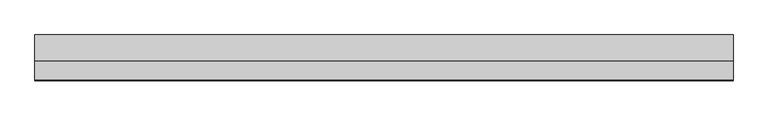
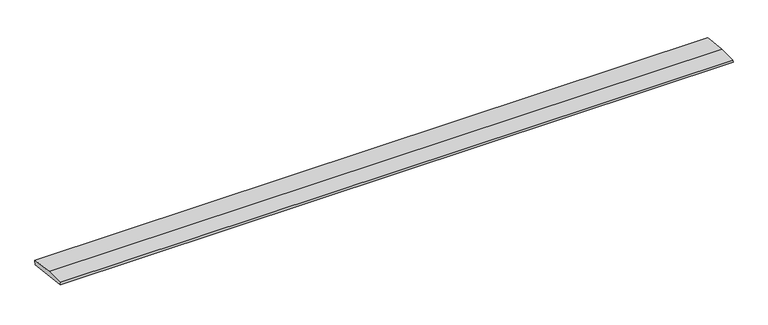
"""IFC4 building model written with IfcOpenShell, lengths in millimetres: beam geometry, weatherboad : weatherboad."""

from ifc_helpers import new_model, si_unit, frame, origin, place, context, project, spatial, polyline, outline, extrude, source, transform, mapped, element, save


def beam_4b6b203c(model_context):
    return source(origin(), model_context, "Body", "SweptSolid", [
        extrude(outline(polyline([(0.0, -9.143159), (1.1226388, 0.0), (79.0749747, 0.0), (180.9387048, -12.5072934), (178.6231873, -31.3656703), (0.0, -9.143159)])), frame((-1377.5939585, 0.0, 0.0), z_axis=(1.0, 0.0, 0.0), x_axis=(0.0, 1.0, 0.0)), (0.0, 0.0, 1.0), 2755.1879169),
    ])


if __name__ == "__main__":
    model = new_model("IFC4")
    model_context = context("Model", 3, world=origin())
    ifc_project = project(units=[si_unit("LENGTHUNIT", "METRE", prefix="MILLI")], contexts=[model_context])
    site = spatial("IfcSite", under=ifc_project)
    building = spatial("IfcBuilding", under=site)
    placement = place(None, origin())
    beam_shape = beam_4b6b203c(model_context)
    element("IfcBeam", 1, ObjectType="weatherboad : weatherboad", at=placement, inside=building, context=model_context, shape_type="MappedRepresentation", body=[
        mapped(beam_shape, transform((0.0, 0.0, 0.0), x_axis=(1.0, 0.0, 0.0), y_axis=(0.0, 1.0, 0.0), z_axis=(0.0, 0.0, 1.0))),
    ])
    save(model, "model.ifc")
